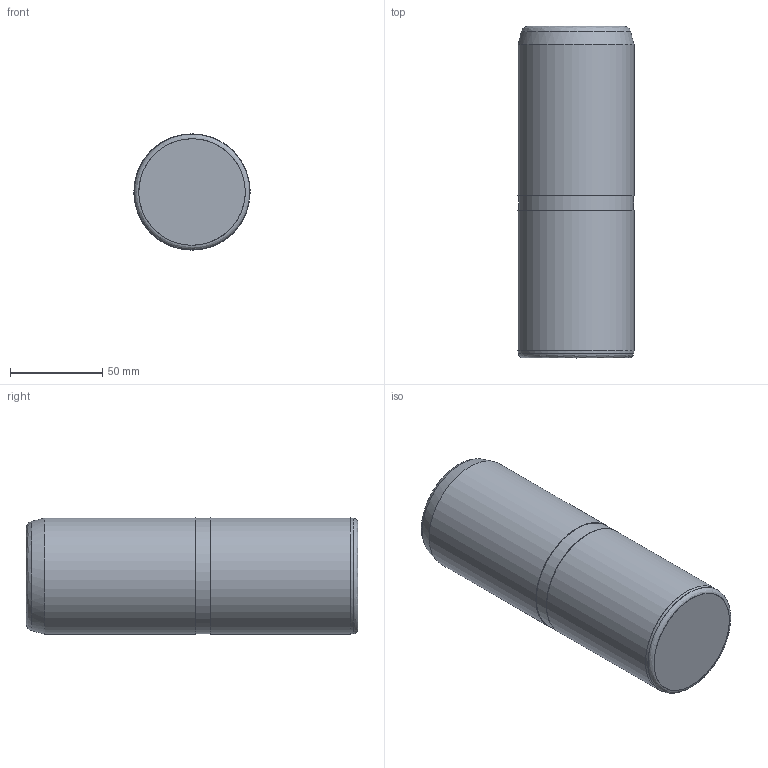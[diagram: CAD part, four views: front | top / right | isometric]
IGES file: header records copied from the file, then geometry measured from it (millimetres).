
Start section: Missler Software BP 521, 31674 Labege Cedex, France Tel   : +33 (0)5 61 00 03 00 Fax   : +33 (0)5 61 00 03 03 Email : sup.topsolid@topsolid.com
Global section: file name: D:\Cuma\26 04 2010\D15g\D15_63180.igs; native system: TopSolid v605250 Missler Software; preprocessor: IGES preprocessor v100000; date: 030225.172244; units: millimetre
Bounding box: 63 x 180 x 63 mm (x, y, z)
Surface area: 41078.7 mm2 (no closed solid volume)
Topology: 0 solids, 0 shells, 11 faces, 216 edges, 210 vertices
Faces by surface type: bspline 11
